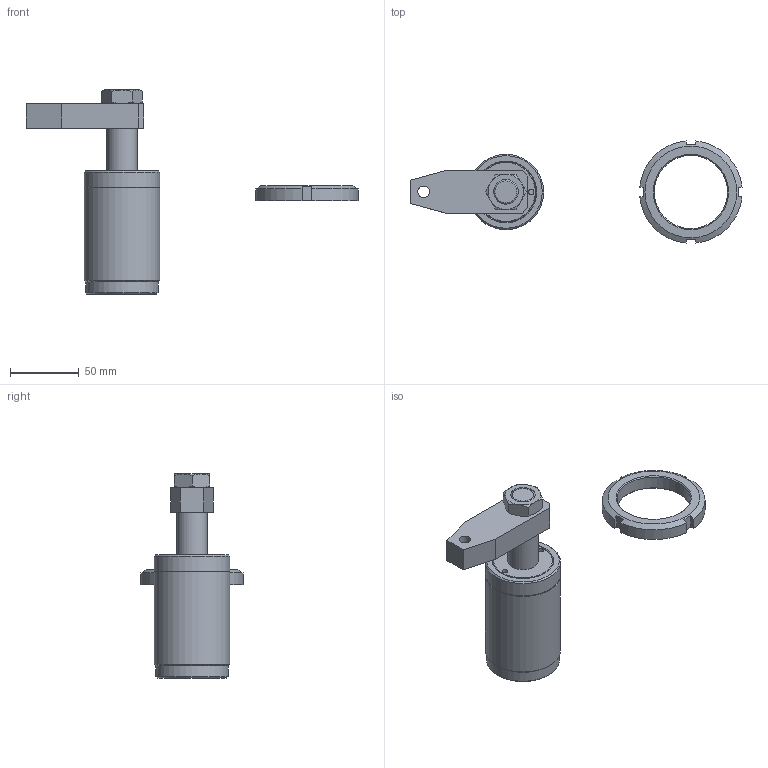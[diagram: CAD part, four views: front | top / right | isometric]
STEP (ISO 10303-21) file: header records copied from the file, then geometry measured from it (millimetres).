
FILE_DESCRIPTION(/* description */ ('Unknown'),/* implementation_level */ '2;1');
FILE_NAME(/* name */ 'HSC-TB40S-A',/* time_stamp */ '2022-08-26T04:10:16+08:00',/* author */ ('Unknown'),/* organization */ ('Unknown'),/* preprocessor_version */ 'ST-DEVELOPER v16.7',/* originating_system */ 'DEX',/* authorisation */ $);
FILE_SCHEMA (('AUTOMOTIVE_DESIGN {1 0 10303 214 3 1 1}'));
Length unit declared in the file: millimetre
Products named in the file (5): HSC-TB40S-A; HSC-4002-S-AXLE CENTRE; HSC-TB40-Nut; HSC-40S-A; HSC-TB40S-CYLINDER
Assembly tree (4 placements, depth 2):
  HSC-TB40S-A
    HSC-4002-S-AXLE CENTRE
    HSC-TB40-Nut
    HSC-40S-A
    HSC-TB40S-CYLINDER
Bounding box: 242.34 x 74.67 x 149 mm (x, y, z)
Volume: 260930.3 mm3; surface area: 59191.5 mm2
Topology: 4 solids, 4 shells, 96 faces, 210 edges, 134 vertices
Faces by surface type: plane 46, cone 27, cylinder 20, torus 3
Full cylindrical faces by diameter (mm): 4 x2, 8.5 x1, 9.147 x2, 18 x2, 19 x1, 22.4 x2, 40 x2, 53 x1, 53.5 x1, 55 x2
Entity records: 3166 total; most frequent: CARTESIAN_POINT 499, DIRECTION 400, ORIENTED_EDGE 328, AXIS2_PLACEMENT_3D 171, EDGE_CURVE 164, EDGE_LOOP 148, FACE_BOUND 148, VERTEX_POINT 122
